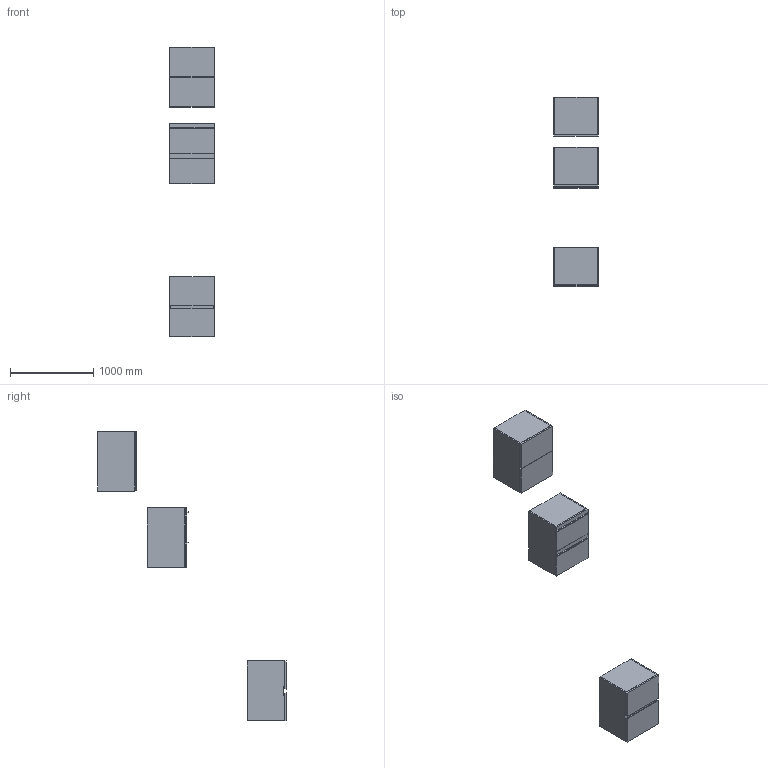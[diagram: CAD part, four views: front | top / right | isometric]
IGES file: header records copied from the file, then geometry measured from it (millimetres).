
Start section: Data from Parasolid IGES Translator 19.0.9, Copyright(c) 2006 Siemens PL M Software. All Rights Reserved.
Global section: file name: noorth-SI-H 72 D 47 W 54_8615.igs; native system: By Siemens PLM Incorporated; preprocessor: XPlus GENERIC/IGES 19.0.9; author: Noname; organization: Noname; date: 20200601.120452; units: metre
Bounding box: 540 x 2270 x 3480.01 mm (x, y, z)
Volume: 77802158.9 mm3; surface area: 11810903.2 mm2
Topology: 24 solids, 24 shells, 248 faces, 544 edges, 324 vertices
Faces by surface type: plane 164, extrusion 36, bspline 32, cylinder 16
